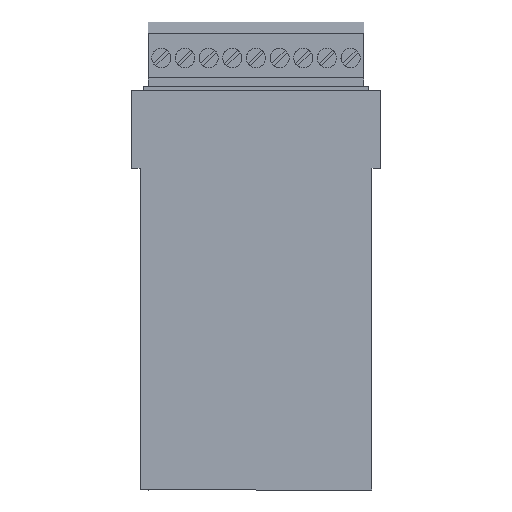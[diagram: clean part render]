
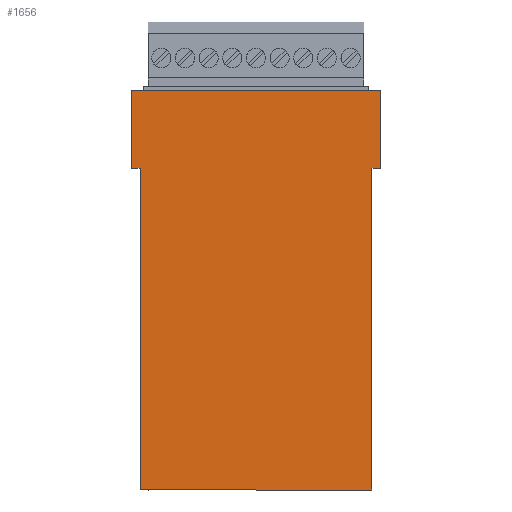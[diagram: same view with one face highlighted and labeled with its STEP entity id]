
A CAD part, left-side view. The second image highlights one B-rep face of the part: STEP entity #1656.
In plain terms, the highlighted planar face has unit normal (-1, 0, 0).
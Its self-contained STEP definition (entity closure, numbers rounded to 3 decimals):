
#169 = DIRECTION ( 'NONE',  ( 0., 0., 1. ) ) ;
#170 = VECTOR ( 'NONE', #169, 1000. ) ;
#176 = CARTESIAN_POINT ( 'NONE',  ( -17., 18.2, -11.4 ) ) ;
#177 = LINE ( 'NONE', #176, #170 ) ;
#233 = DIRECTION ( 'NONE',  ( 0., 1., 0. ) ) ;
#234 = VECTOR ( 'NONE', #233, 1000. ) ;
#239 = CARTESIAN_POINT ( 'NONE',  ( -17., 16.9, -11.4 ) ) ;
#240 = LINE ( 'NONE', #239, #234 ) ;
#280 = DIRECTION ( 'NONE',  ( 0., -1., 0. ) ) ;
#287 = CARTESIAN_POINT ( 'NONE',  ( -17., -18.2, 0. ) ) ;
#288 = CARTESIAN_POINT ( 'NONE',  ( -17., 18.2, -11.4 ) ) ;
#289 = VECTOR ( 'NONE', #280, 1000. ) ;
#291 = CARTESIAN_POINT ( 'NONE',  ( -17., 18.2, 0. ) ) ;
#292 = LINE ( 'NONE', #291, #289 ) ;
#297 = CARTESIAN_POINT ( 'NONE',  ( -17., 16.9, -11.4 ) ) ;
#380 = CARTESIAN_POINT ( 'NONE',  ( -17., 18.2, 0. ) ) ;
#1604 = VERTEX_POINT ( 'NONE', #4127 ) ;
#1609 = EDGE_CURVE ( 'NONE', #1604, #1799, #4128, .T. ) ;
#1654 = ORIENTED_EDGE ( 'NONE', *, *, #3499, .F. ) ;
#1656 = ADVANCED_FACE ( 'NONE', ( #4188 ), #4174, .T. ) ;
#1657 = ORIENTED_EDGE ( 'NONE', *, *, #3470, .F. ) ;
#1658 = ORIENTED_EDGE ( 'NONE', *, *, #1752, .F. ) ;
#1659 = ORIENTED_EDGE ( 'NONE', *, *, #1792, .F. ) ;
#1661 = ORIENTED_EDGE ( 'NONE', *, *, #1609, .F. ) ;
#1664 = ORIENTED_EDGE ( 'NONE', *, *, #1745, .F. ) ;
#1745 = EDGE_CURVE ( 'NONE', #1757, #1798, #2359, .T. ) ;
#1752 = EDGE_CURVE ( 'NONE', #1798, #1604, #4423, .T. ) ;
#1757 = VERTEX_POINT ( 'NONE', #4476 ) ;
#1790 = EDGE_LOOP ( 'NONE', ( #1657, #1793, #1654, #1791, #1661, #1658, #1664, #1659 ) ) ;
#1791 = ORIENTED_EDGE ( 'NONE', *, *, #1795, .F. ) ;
#1792 = EDGE_CURVE ( 'NONE', #3468, #1757, #4466, .T. ) ;
#1793 = ORIENTED_EDGE ( 'NONE', *, *, #3421, .F. ) ;
#1795 = EDGE_CURVE ( 'NONE', #1799, #3476, #4363, .T. ) ;
#1798 = VERTEX_POINT ( 'NONE', #4366 ) ;
#1799 = VERTEX_POINT ( 'NONE', #4376 ) ;
#2358 = CARTESIAN_POINT ( 'NONE',  ( -17., -16.9, -11.4 ) ) ;
#2359 = LINE ( 'NONE', #2358, #3915 ) ;
#3361 = VERTEX_POINT ( 'NONE', #380 ) ;
#3421 = EDGE_CURVE ( 'NONE', #3473, #3361, #177, .T. ) ;
#3468 = VERTEX_POINT ( 'NONE', #287 ) ;
#3470 = EDGE_CURVE ( 'NONE', #3361, #3468, #292, .T. ) ;
#3473 = VERTEX_POINT ( 'NONE', #288 ) ;
#3476 = VERTEX_POINT ( 'NONE', #297 ) ;
#3499 = EDGE_CURVE ( 'NONE', #3476, #3473, #240, .T. ) ;
#3915 = VECTOR ( 'NONE', #4044, 1000. ) ;
#4044 = DIRECTION ( 'NONE',  ( 0., 1., 0. ) ) ;
#4127 = CARTESIAN_POINT ( 'NONE',  ( -17., -16.9, -58.3 ) ) ;
#4128 = LINE ( 'NONE', #4202, #4161 ) ;
#4132 = AXIS2_PLACEMENT_3D ( 'NONE', #4321, #4320, #4319 ) ;
#4161 = VECTOR ( 'NONE', #4199, 1000. ) ;
#4174 = PLANE ( 'NONE',  #4132 ) ;
#4188 = FACE_OUTER_BOUND ( 'NONE', #1790, .T. ) ;
#4199 = DIRECTION ( 'NONE',  ( 0., 1., 0. ) ) ;
#4202 = CARTESIAN_POINT ( 'NONE',  ( -17., 16.9, -58.3 ) ) ;
#4319 = DIRECTION ( 'NONE',  ( 0., 0., 1. ) ) ;
#4320 = DIRECTION ( 'NONE',  ( -1., 0., 0. ) ) ;
#4321 = CARTESIAN_POINT ( 'NONE',  ( -17., -18.2, 0. ) ) ;
#4363 = LINE ( 'NONE', #4490, #4378 ) ;
#4366 = CARTESIAN_POINT ( 'NONE',  ( -17., -16.9, -11.4 ) ) ;
#4376 = CARTESIAN_POINT ( 'NONE',  ( -17., 16.9, -58.3 ) ) ;
#4377 = DIRECTION ( 'NONE',  ( 0., 0., 1. ) ) ;
#4378 = VECTOR ( 'NONE', #4377, 1000. ) ;
#4380 = DIRECTION ( 'NONE',  ( 0., 0., -1. ) ) ;
#4385 = VECTOR ( 'NONE', #4380, 1000. ) ;
#4386 = CARTESIAN_POINT ( 'NONE',  ( -17., -18.2, -11.4 ) ) ;
#4422 = CARTESIAN_POINT ( 'NONE',  ( -17., -16.9, -58.3 ) ) ;
#4423 = LINE ( 'NONE', #4422, #4451 ) ;
#4425 = DIRECTION ( 'NONE',  ( 0., 0., -1. ) ) ;
#4451 = VECTOR ( 'NONE', #4425, 1000. ) ;
#4466 = LINE ( 'NONE', #4386, #4385 ) ;
#4476 = CARTESIAN_POINT ( 'NONE',  ( -17., -18.2, -11.4 ) ) ;
#4490 = CARTESIAN_POINT ( 'NONE',  ( -17., 16.9, -58.3 ) ) ;
